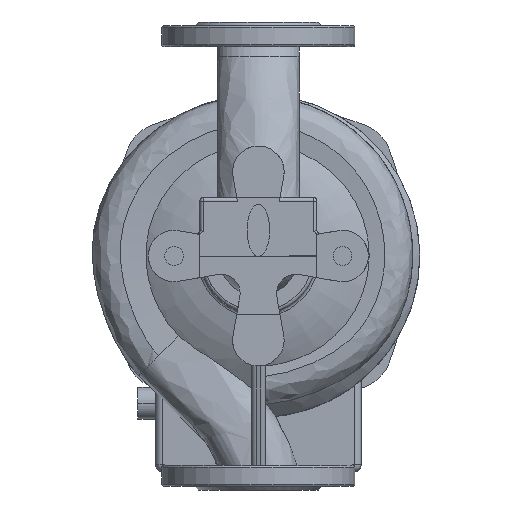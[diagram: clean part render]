
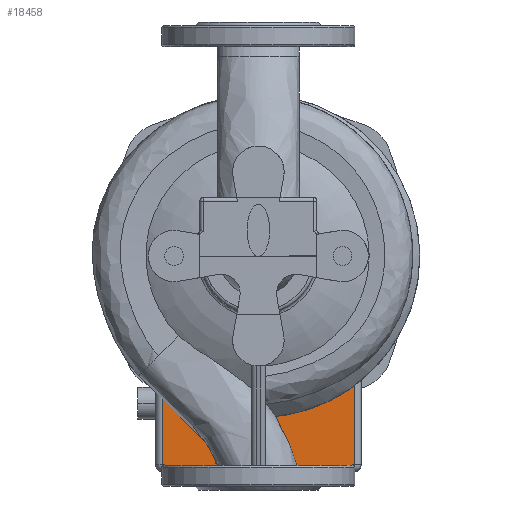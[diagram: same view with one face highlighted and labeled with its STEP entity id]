
A CAD part, front view. The second image highlights one B-rep face of the part: STEP entity #18458.
In plain terms, the highlighted planar face has unit normal (0, -1, 0) as drawn and (0, 0, 1) by its records, which use the part's own axes.
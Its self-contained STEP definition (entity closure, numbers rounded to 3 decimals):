
#348 = EDGE_LOOP ( 'NONE', ( #20944, #12351, #24107, #19668 ) ) ;
#1132 = LINE ( 'NONE', #9570, #5626 ) ;
#1296 = CARTESIAN_POINT ( 'NONE',  ( -82., 72.569, -140.5 ) ) ;
#1298 = CARTESIAN_POINT ( 'NONE',  ( 0., 0., -140.5 ) ) ;
#1931 = CARTESIAN_POINT ( 'NONE',  ( 0., -423., -140.5 ) ) ;
#3101 = EDGE_CURVE ( 'NONE', #14094, #26180, #1132, .T. ) ;
#3852 = DIRECTION ( 'NONE',  ( 1., 0., 0. ) ) ;
#3905 = EDGE_CURVE ( 'NONE', #15112, #14094, #11610, .T. ) ;
#5430 = DIRECTION ( 'NONE',  ( 0., 0., 1. ) ) ;
#5626 = VECTOR ( 'NONE', #7826, 1000. ) ;
#5763 = VECTOR ( 'NONE', #13222, 1000. ) ;
#6001 = CARTESIAN_POINT ( 'NONE',  ( -82., 178.436, -140.5 ) ) ;
#6244 = CARTESIAN_POINT ( 'NONE',  ( 82., 72.569, -140.5 ) ) ;
#7181 = EDGE_CURVE ( 'NONE', #25327, #15112, #13352, .T. ) ;
#7264 = FACE_OUTER_BOUND ( 'NONE', #348, .T. ) ;
#7331 = CARTESIAN_POINT ( 'NONE',  ( -82., 128.5, -140.5 ) ) ;
#7826 = DIRECTION ( 'NONE',  ( 0., 1., 0. ) ) ;
#8731 = AXIS2_PLACEMENT_3D ( 'NONE', #16807, #12408, #21301 ) ;
#9461 = AXIS2_PLACEMENT_3D ( 'NONE', #1931, #5430, #15976 ) ;
#9474 = DIRECTION ( 'NONE',  ( 0., 0., -1. ) ) ;
#9570 = CARTESIAN_POINT ( 'NONE',  ( 82., 128.5, -140.5 ) ) ;
#11610 = CIRCLE ( 'NONE', #24411, 109.5 ) ;
#11718 = EDGE_CURVE ( 'NONE', #26180, #25327, #22240, .T. ) ;
#12351 = ORIENTED_EDGE ( 'NONE', *, *, #3101, .T. ) ;
#12408 = DIRECTION ( 'NONE',  ( 0., 0., 1. ) ) ;
#13222 = DIRECTION ( 'NONE',  ( 0., -1., 0. ) ) ;
#13352 = LINE ( 'NONE', #7331, #5763 ) ;
#14094 = VERTEX_POINT ( 'NONE', #6244 ) ;
#14965 = CARTESIAN_POINT ( 'NONE',  ( 82., 178.436, -140.5 ) ) ;
#15112 = VERTEX_POINT ( 'NONE', #1296 ) ;
#15976 = DIRECTION ( 'NONE',  ( 0., -1., 0. ) ) ;
#16807 = CARTESIAN_POINT ( 'NONE',  ( 68., 128.5, -140.5 ) ) ;
#18458 = ADVANCED_FACE ( 'NONE', ( #7264 ), #18804, .T. ) ;
#18804 = PLANE ( 'NONE',  #8731 ) ;
#19668 = ORIENTED_EDGE ( 'NONE', *, *, #7181, .T. ) ;
#20944 = ORIENTED_EDGE ( 'NONE', *, *, #3905, .T. ) ;
#21301 = DIRECTION ( 'NONE',  ( 0., -1., 0. ) ) ;
#22240 = CIRCLE ( 'NONE', #9461, 607. ) ;
#24107 = ORIENTED_EDGE ( 'NONE', *, *, #11718, .T. ) ;
#24411 = AXIS2_PLACEMENT_3D ( 'NONE', #1298, #9474, #3852 ) ;
#25327 = VERTEX_POINT ( 'NONE', #6001 ) ;
#26180 = VERTEX_POINT ( 'NONE', #14965 ) ;
